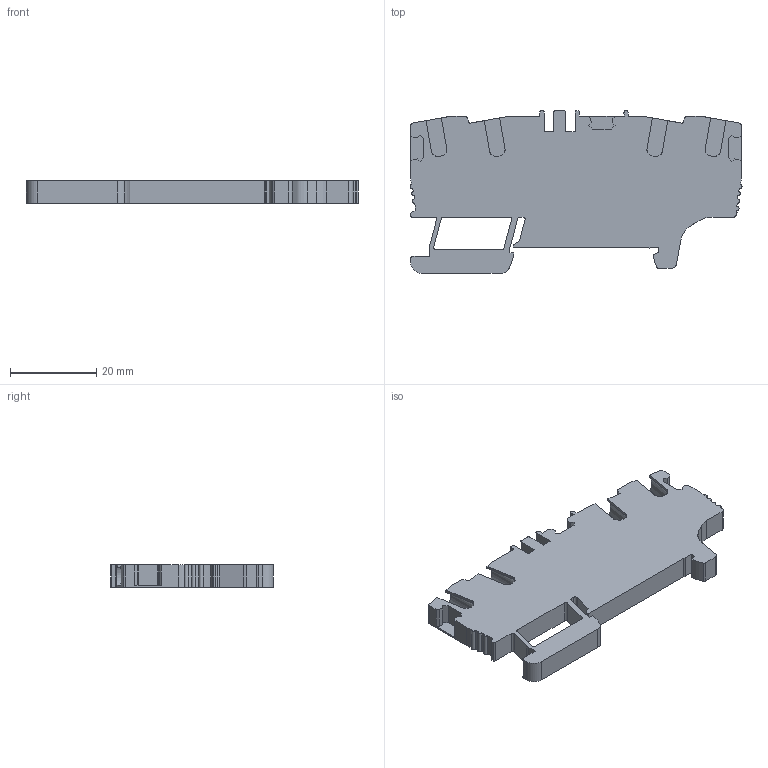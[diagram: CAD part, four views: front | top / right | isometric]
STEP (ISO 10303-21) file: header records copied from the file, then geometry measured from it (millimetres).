
FILE_DESCRIPTION(('Creo Elements/Direct Modeling STEP Export'),'2;1');
FILE_NAME('EFC.2_2+2.stp','2018-11-08T 9:39:07',(''),(''),'Creo Elements/Direct Modeling STEP processor for AP214 (Solid Model)','Creo Elements/Direct Modeling 20.1 10-Mar-2018 (C) Parametric Technology GmbH','');
FILE_SCHEMA(('AUTOMOTIVE_DESIGN { 1 0 10303 214 1 1 1 1 }'));
Length unit declared in the file: millimetre
Products named in the file (1): EFC.2_2+2
Bounding box: 76.96 x 37.7 x 5.2 mm (x, y, z)
Volume: 10240.5 mm3; surface area: 6755.6 mm2
Topology: 1 solids, 1 shells, 274 faces, 792 edges, 528 vertices
Faces by surface type: plane 194, cylinder 80
Entity records: 9279 total; most frequent: ORIENTED_EDGE 1584, CARTESIAN_POINT 1577, DIRECTION 1481, EDGE_CURVE 792, VECTOR 617, LINE 617, VERTEX_POINT 528, AXIS2_PLACEMENT_3D 432
